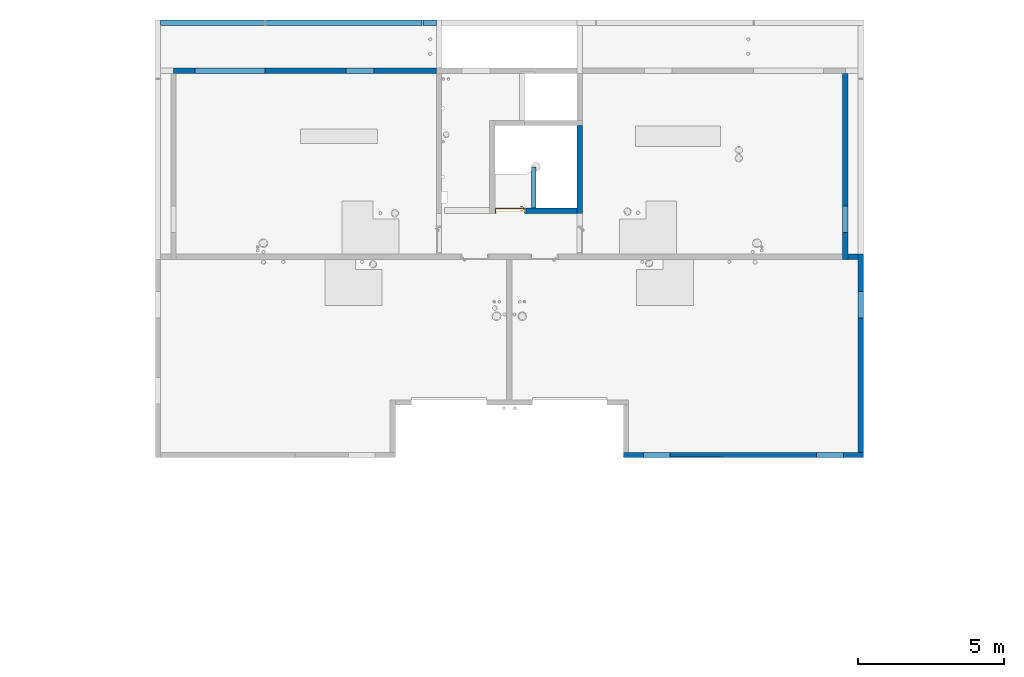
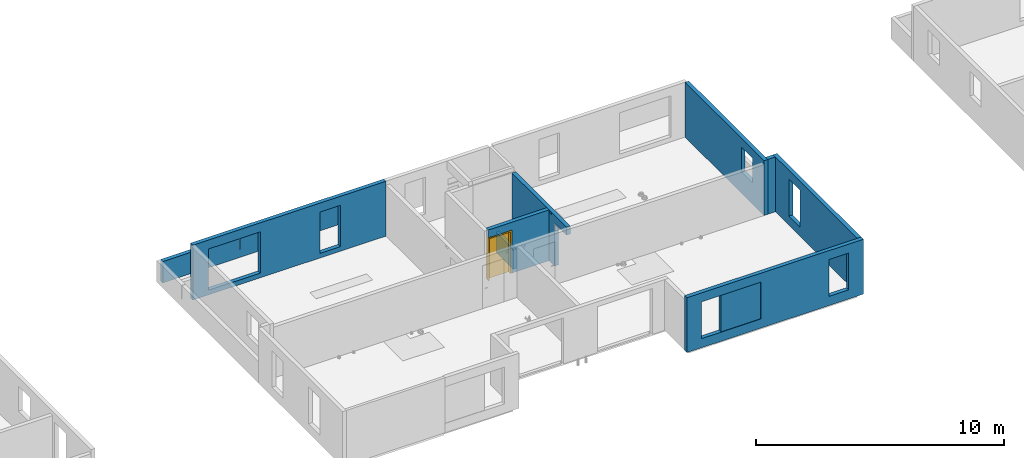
# One storey, part 11 of 28: 9 walls, 1 door, 15 openings.
"""IFC2X3 building model written with IfcOpenShell, lengths in centimetres."""

from ifc_helpers import new_model, entity, si_unit, converted_unit, derived_unit, direction, frame, frame_2d, origin, place, context, subcontext, project, spatial, polyline, rectangle, extrude, clip, bounded_halfspace, faceted_brep, source, transform, mapped, material, material_list, layer, layer_set, layer_usage, type_object, type_shapes, element, fill, save


model = new_model("IFC2X3")

# Units and contexts
model_context = context("Model", 3, precision=0.001, world=origin(), true_north=direction((6.12303176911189e-17, 1.0)))
body_context = subcontext(model_context, "Body", "Model", "MODEL_VIEW")
ifc_project = project(units=[si_unit("LENGTHUNIT", "METRE", prefix="CENTI"), si_unit("AREAUNIT", "SQUARE_METRE"), si_unit("VOLUMEUNIT", "CUBIC_METRE"), converted_unit("PLANEANGLEUNIT", "DEGREE", entity("IfcRatioMeasure", 0.0174532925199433), si_unit("PLANEANGLEUNIT", "RADIAN"), dimensions=[0, 0, 0, 0, 0, 0, 0]), si_unit("MASSUNIT", "GRAM", prefix="KILO"), derived_unit("MASSDENSITYUNIT", [(si_unit("MASSUNIT", "GRAM", prefix="KILO"), 1), (si_unit("LENGTHUNIT", "METRE"), -3)]), si_unit("TIMEUNIT", "SECOND"), si_unit("FREQUENCYUNIT", "HERTZ"), si_unit("THERMODYNAMICTEMPERATUREUNIT", "DEGREE_CELSIUS"), derived_unit("THERMALTRANSMITTANCEUNIT", [(si_unit("MASSUNIT", "GRAM", prefix="KILO"), 1), (si_unit("THERMODYNAMICTEMPERATUREUNIT", "KELVIN"), -1), (si_unit("TIMEUNIT", "SECOND"), -3)]), derived_unit("VOLUMETRICFLOWRATEUNIT", [(si_unit("LENGTHUNIT", "METRE"), 3), (si_unit("TIMEUNIT", "SECOND"), -1)]), si_unit("ELECTRICCURRENTUNIT", "AMPERE"), si_unit("ELECTRICVOLTAGEUNIT", "VOLT"), si_unit("POWERUNIT", "WATT"), si_unit("FORCEUNIT", "NEWTON"), si_unit("ILLUMINANCEUNIT", "LUX"), si_unit("LUMINOUSFLUXUNIT", "LUMEN"), si_unit("LUMINOUSINTENSITYUNIT", "CANDELA"), derived_unit("USERDEFINED", [(si_unit("MASSUNIT", "GRAM", prefix="KILO"), -1), (si_unit("LENGTHUNIT", "METRE"), -2), (si_unit("TIMEUNIT", "SECOND"), 3), (si_unit("LUMINOUSFLUXUNIT", "LUMEN"), 1)]), derived_unit("LINEARVELOCITYUNIT", [(si_unit("LENGTHUNIT", "METRE"), 1), (si_unit("TIMEUNIT", "SECOND"), -1)]), si_unit("PRESSUREUNIT", "PASCAL"), derived_unit("USERDEFINED", [(si_unit("LENGTHUNIT", "METRE"), -2), (si_unit("MASSUNIT", "GRAM", prefix="KILO"), 1), (si_unit("TIMEUNIT", "SECOND"), -2)])], contexts=[model_context])

# Site, building, storey
site_placement = place(None, origin())
site = spatial("IfcSite", under=ifc_project, at=site_placement, Name="Default", CompositionType="ELEMENT")
building_placement = place(site_placement, origin())
building = spatial("IfcBuilding", under=site, at=building_placement, Name="CAGE 03", CompositionType="ELEMENT")
storey_placement = place(building_placement, frame((0.0, 0.0, 1420.0)))
storey = spatial("IfcBuildingStorey", under=building, at=storey_placement, Name="R+5", CompositionType="ELEMENT", Elevation=1420.0)

# Wall, openings
ifc_material_1 = material(Name="Béton, C25/30")
ifc_layer_1 = layer(ifc_material_1, 18.0)
ifc_layer_set_1 = layer_set([ifc_layer_1], Name="Mur de base:Voile BA 18")
ifc_layer_usage_1 = layer_usage(ifc_layer_set_1, "AXIS2", "POSITIVE", -9.0)
wall_type_1 = type_object("IfcWallType", Name="Mur de base:Voile BA 18", PredefinedType="STANDARD", material=ifc_layer_set_1)
wall_1_placement = place(storey_placement, frame((7471.36582014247, 3805.6606660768, 0.0)))
wall_1 = element("IfcWallStandardCase", 1, at=wall_1_placement, inside=storey, type_object=wall_type_1, material=ifc_layer_usage_1, Name="Mur de base:Voile BA 18", ObjectType="Mur de base:Voile BA 18", context=body_context, shape_type="SweptSolid", body=[
    extrude(rectangle(XDim=821.000000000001, YDim=18.0000000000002, at=frame_2d((410.500000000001, 0.0), x_axis=(-1.0, 0.0))), origin(), (0.0, 0.0, 1.0), 270.0),
])
opening_1_placement = place(wall_1_placement, origin())
element("IfcOpeningElement", 2, at=opening_1_placement, cuts=wall_1, Name="Mur de base:Voile BA 18", ObjectType="Recess", context=body_context, shape_type="SweptSolid", body=[
    extrude(rectangle(XDim=181.0, YDim=184.0, at=frame_2d((-1.06581410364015e-13, 0.0), x_axis=(1.0, 0.0))), frame((252.0, -9.0, 135.5), z_axis=(0.0, 1.0, 0.0), x_axis=(0.0, 0.0, -1.0)), (0.0, 0.0, 1.0), 1.99999999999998),
])
opening_2_placement = place(wall_1_placement, origin())
element("IfcOpeningElement", 3, at=opening_2_placement, cuts=wall_1, Name="Mur de base:Voile BA 18", ObjectType="Recess", context=body_context, shape_type="SweptSolid", body=[
    extrude(rectangle(XDim=181.0, YDim=184.0, at=frame_2d((-1.06581410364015e-13, 0.0), x_axis=(1.0, 0.0))), frame((-1032.0, -9.0, 135.5), z_axis=(0.0, 1.0, 0.0), x_axis=(0.0, 0.0, -1.0)), (0.0, 0.0, 1.0), 1.99999999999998),
])
opening_3_placement = place(wall_1_placement, frame((-7471.36582014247, -3805.6606660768, 0.0)))
element("IfcOpeningElement", 4, at=opening_3_placement, cuts=wall_1, Name="Mur de base:Voile BA 18", ObjectType="Opening", context=body_context, shape_type="SweptSolid", body=[
    extrude(rectangle(XDim=181.0, YDim=91.0000000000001, at=frame_2d((0.0, -2.1316282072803e-13), x_axis=(0.0, 1.0))), frame((7585.86582014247, 3644.2606660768, 135.5), z_axis=(0.0, 1.0, 0.0), x_axis=(-1.0, 0.0, 0.0)), (0.0, 0.0, 1.0), 304.8),
])
opening_4_placement = place(wall_1_placement, frame((-7471.36582014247, -3805.6606660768, 0.0)))
element("IfcOpeningElement", 5, at=opening_4_placement, cuts=wall_1, Name="Mur de base:Voile BA 18", ObjectType="Opening", context=body_context, shape_type="SweptSolid", body=[
    extrude(rectangle(XDim=181.0, YDim=91.0000000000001, at=frame_2d((0.0, -2.1316282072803e-13), x_axis=(0.0, 1.0))), frame((8177.86582014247, 3644.2606660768, 135.5), z_axis=(0.0, 1.0, 0.0), x_axis=(-1.0, 0.0, 0.0)), (0.0, 0.0, 1.0), 304.8),
])

# Wall, opening
ifc_layer_usage_2 = layer_usage(ifc_layer_set_1, "AXIS2", "POSITIVE", -9.0)
wall_2_placement = place(storey_placement, frame((8283.36582014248, 3814.6606660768, 0.0), z_axis=(0.0, 0.0, 1.0), x_axis=(0.0, 1.0, 0.0)))
wall_2 = element("IfcWallStandardCase", 6, at=wall_2_placement, inside=storey, type_object=wall_type_1, material=ifc_layer_usage_2, Name="Mur de base:Voile BA 18", ObjectType="Mur de base:Voile BA 18", context=body_context, shape_type="SweptSolid", body=[
    extrude(rectangle(XDim=677.999999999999, YDim=17.9999999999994, at=frame_2d((339.0, 1.58095758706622e-13), x_axis=(-1.0, 0.0))), origin(), (0.0, 0.0, 1.0), 270.0),
])
opening_5_placement = place(wall_2_placement, frame((-3814.6606660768, 8283.36582014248, 0.0), z_axis=(0.0, 0.0, 1.0), x_axis=(0.0, -1.0, 0.0)))
element("IfcOpeningElement", 7, at=opening_5_placement, cuts=wall_2, Name="Mur de base:Voile BA 18", ObjectType="Opening", context=body_context, shape_type="SweptSolid", body=[
    extrude(rectangle(XDim=181.0, YDim=91.0000000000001, at=frame_2d((2.1316282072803e-13, 0.0), x_axis=(1.0, 0.0))), frame((8426.76582014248, 4320.1606660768, 135.5), z_axis=(-1.0, 0.0, 0.0), x_axis=(0.0, 0.0, 1.0)), (0.0, 0.0, 1.0), 304.8),
])

# Wall, openings
ifc_layer_usage_3 = layer_usage(ifc_layer_set_1, "AXIS2", "POSITIVE", -9.0)
wall_3_placement = place(storey_placement, frame((6840.36582014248, 5119.6606660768, 0.0), z_axis=(0.0, 0.0, 1.0), x_axis=(-1.0, 0.0, 0.0)))
wall_3 = element("IfcWallStandardCase", 8, at=wall_3_placement, inside=storey, type_object=wall_type_1, material=ifc_layer_usage_3, Name="Mur de base:Voile BA 18", ObjectType="Mur de base:Voile BA 18", context=body_context, shape_type="SweptSolid", body=[
    extrude(rectangle(XDim=898.999999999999, YDim=18.0000000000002, at=frame_2d((458.499999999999, -5.50670620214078e-13), x_axis=(-1.0, 0.0))), origin(), (0.0, 0.0, 1.0), 270.0),
])
opening_6_placement = place(wall_3_placement, origin())
element("IfcOpeningElement", 9, at=opening_6_placement, cuts=wall_3, Name="Mur de base:Voile BA 18", ObjectType="Opening", context=body_context, shape_type="SweptSolid", body=[
    extrude(rectangle(XDim=227.0, YDim=18.0000000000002, at=frame_2d((4.33431068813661e-13, -2.20268248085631e-13), x_axis=(0.0, 1.0))), frame((-284.0, 9.0, 113.5), z_axis=(0.0, 1.0, 0.0), x_axis=(-1.0, 0.0, 0.0)), (0.0, 0.0, 1.0), 160.0),
])
opening_7_placement = place(wall_3_placement, origin())
element("IfcOpeningElement", 10, at=opening_7_placement, cuts=wall_3, Name="Mur de base:Voile BA 18", ObjectType="Recess", context=body_context, shape_type="SweptSolid", body=[
    extrude(rectangle(XDim=30.0000000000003, YDim=49.9999999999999, at=frame_2d((-4.33431068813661e-13, 1.08357767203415e-13), x_axis=(0.0, 1.0))), frame((-303.0, 4.0, 25.0), z_axis=(0.0, 1.0, 0.0), x_axis=(1.0, 0.0, 0.0)), (0.0, 0.0, 1.0), 4.99999999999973),
])
opening_8_placement = place(wall_3_placement, origin())
element("IfcOpeningElement", 11, at=opening_8_placement, cuts=wall_3, Name="Mur de base:Voile BA 18", ObjectType="Recess", context=body_context, shape_type="SweptSolid", body=[
    extrude(rectangle(XDim=30.0000000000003, YDim=49.9999999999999, at=frame_2d((-4.33431068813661e-13, 1.08357767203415e-13), x_axis=(0.0, 1.0))), frame((-303.0, 4.0, 120.0), z_axis=(0.0, 1.0, 0.0), x_axis=(1.0, 0.0, 0.0)), (0.0, 0.0, 1.0), 4.99999999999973),
])
opening_9_placement = place(wall_3_placement, origin())
element("IfcOpeningElement", 12, at=opening_9_placement, cuts=wall_3, Name="Mur de base:Voile BA 18", ObjectType="Recess", context=body_context, shape_type="SweptSolid", body=[
    extrude(rectangle(XDim=30.0000000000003, YDim=49.9999999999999, at=frame_2d((-4.33431068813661e-13, 1.08357767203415e-13), x_axis=(0.0, 1.0))), frame((-303.0, 4.0, 165.0), z_axis=(0.0, 1.0, 0.0), x_axis=(1.0, 0.0, 0.0)), (0.0, 0.0, 1.0), 4.99999999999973),
])
opening_10_placement = place(wall_3_placement, frame((6840.36582014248, 5119.6606660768, 0.0), z_axis=(0.0, 0.0, 1.0), x_axis=(-1.0, 0.0, 0.0)))
element("IfcOpeningElement", 13, at=opening_10_placement, cuts=wall_3, Name="Mur de base:Voile BA 18", ObjectType="Opening", context=body_context, shape_type="SweptSolid", body=[
    extrude(rectangle(XDim=203.0, YDim=240.0, at=frame_2d((-4.33431068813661e-13, -1.06581410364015e-13), x_axis=(0.0, 1.0))), frame((6126.36582014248, 5263.0606660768, 124.5), z_axis=(0.0, -1.0, 0.0), x_axis=(1.0, 0.0, 0.0)), (0.0, 0.0, 1.0), 304.8),
])
opening_11_placement = place(wall_3_placement, frame((6840.36582014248, 5119.6606660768, 0.0), z_axis=(0.0, 0.0, 1.0), x_axis=(-1.0, 0.0, 0.0)))
element("IfcOpeningElement", 14, at=opening_11_placement, cuts=wall_3, Name="Mur de base:Voile BA 18", ObjectType="Opening", context=body_context, shape_type="SweptSolid", body=[
    extrude(rectangle(XDim=203.0, YDim=95.0000000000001, at=frame_2d((4.33431068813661e-13, -1.06581410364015e-13), x_axis=(0.0, 1.0))), frame((6570.86582014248, 5263.0606660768, 124.5), z_axis=(0.0, -1.0, 0.0), x_axis=(1.0, 0.0, 0.0)), (0.0, 0.0, 1.0), 304.8),
])

# Wall, opening
ifc_layer_usage_4 = layer_usage(ifc_layer_set_1, "AXIS2", "POSITIVE", -9.0)
wall_4_placement = place(storey_placement, frame((8230.36582014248, 4474.6606660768, 0.0), z_axis=(0.0, 0.0, 1.0), x_axis=(0.0, 1.0, 0.0)))
wall_4 = element("IfcWallStandardCase", 15, at=wall_4_placement, inside=storey, type_object=wall_type_1, material=ifc_layer_usage_4, Name="Mur de base:Voile BA 18", ObjectType="Mur de base:Voile BA 18", context=body_context, shape_type="SweptSolid", body=[
    extrude(rectangle(XDim=636.000000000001, YDim=17.9999999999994, at=frame_2d((318.0, 9.41469124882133e-14), x_axis=(-1.0, 0.0))), origin(), (0.0, 0.0, 1.0), 270.0),
])
opening_12_placement = place(wall_4_placement, frame((-4474.6606660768, 8230.36582014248, 0.0), z_axis=(0.0, 0.0, 1.0), x_axis=(0.0, -1.0, 0.0)))
element("IfcOpeningElement", 16, at=opening_12_placement, cuts=wall_4, Name="Mur de base:Voile BA 18", ObjectType="Opening", context=body_context, shape_type="SweptSolid", body=[
    extrude(rectangle(XDim=121.0, YDim=91.0000000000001, at=frame_2d((-1.10134124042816e-13, 0.0), x_axis=(1.0, 0.0))), frame((8373.76582014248, 4612.1606660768, 165.5), z_axis=(-1.0, 0.0, 0.0), x_axis=(0.0, 0.0, 1.0)), (0.0, 0.0, 1.0), 304.8),
])

# Walls
ifc_layer_usage_5 = layer_usage(ifc_layer_set_1, "AXIS2", "NEGATIVE", 9.0)
wall_5_placement = place(storey_placement, frame((8239.36582014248, 4483.6606660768, 0.0)))
element("IfcWallStandardCase", 17, at=wall_5_placement, inside=storey, type_object=wall_type_1, material=ifc_layer_usage_5, Name="Mur de base:Voile BA 18", ObjectType="Mur de base:Voile BA 18", context=body_context, shape_type="SweptSolid", body=[
    extrude(rectangle(XDim=35.0000000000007, YDim=17.9999999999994, at=frame_2d((17.5000000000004, 5.77315972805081e-14), x_axis=(-1.0, 0.0))), origin(), (0.0, 0.0, 1.0), 270.0),
])
ifc_layer_usage_6 = layer_usage(ifc_layer_set_1, "AXIS2", "POSITIVE", -9.0)
wall_6_placement = place(storey_placement, frame((6831.36582014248, 5284.6606660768, 0.0), z_axis=(0.0, 0.0, 1.0), x_axis=(-1.0, 0.0, 0.0)))
element("IfcWallStandardCase", 18, at=wall_6_placement, inside=storey, type_object=wall_type_1, material=ifc_layer_usage_6, Name="Mur de base:Voile BA 18", ObjectType="Mur de base:Voile BA 18", context=body_context, shape_type="Clipping", body=[
    clip(clip(extrude(rectangle(XDim=943.0, YDim=17.9999999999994, at=frame_2d((471.5, -2.71782596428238e-13), x_axis=(-1.0, 0.0))), origin(), (0.0, 0.0, 1.0), 105.0), bounded_halfspace(frame((584.0, 9.0, 40.0), z_axis=(0.0, 0.0, 1.0), x_axis=(0.0, -1.0, 0.0)), False, frame((584.0, 9.0, 40.0), z_axis=(0.0, 0.0, 1.0), x_axis=(0.0, -1.0, 0.0)), polyline([(0.0, 0.0), (18.0, 0.0), (18.0, 2.0), (0.0, 2.0), (0.0, 0.0)]))), bounded_halfspace(frame((46.0, 9.0, 40.0), z_axis=(0.0, 0.0, 1.0), x_axis=(0.0, -1.0, 0.0)), False, frame((46.0, 9.0, 40.0), z_axis=(0.0, 0.0, 1.0), x_axis=(0.0, -1.0, 0.0)), polyline([(0.0, 0.0), (18.0, 0.0), (18.0, 2.0), (0.0, 2.0), (0.0, 0.0)]))),
])

# Wall, opening, door
ifc_material_2 = material(Name="Béton, panneaux préfa 30/37")
ifc_layer_2 = layer(ifc_material_2, 5.5)
ifc_layer_3 = layer(ifc_material_1, 7.0)
ifc_layer_4 = layer(ifc_material_2, 5.5)
ifc_layer_set_2 = layer_set([ifc_layer_2, ifc_layer_3, ifc_layer_4], Name="Mur de base:premur 18")
ifc_layer_usage_7 = layer_usage(ifc_layer_set_2, "AXIS2", "NEGATIVE", 9.0)
wall_type_2 = type_object("IfcWallType", Name="Mur de base:premur 18", PredefinedType="NOTDEFINED")
wall_7_placement = place(storey_placement, frame((7031.36582014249, 4641.6606660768, 0.0)))
wall_7 = element("IfcWallStandardCase", 19, at=wall_7_placement, inside=storey, type_object=wall_type_2, material=ifc_layer_usage_7, Name="Mur de base:premur 18", ObjectType="Mur de base:premur 18", context=body_context, shape_type="SweptSolid", body=[
    extrude(rectangle(XDim=281.999999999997, YDim=17.9999999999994, at=frame_2d((140.999999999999, -8.5265128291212e-14), x_axis=(-1.0, 0.0))), origin(), (0.0, 0.0, 1.0), 250.0),
])
opening_13_placement = place(wall_7_placement, frame((0.0, -9.0, 0.0)))
opening_13 = element("IfcOpeningElement", 20, at=opening_13_placement, cuts=wall_7, Name="Int. Simple:HB103:1", ObjectType="Opening", context=body_context, shape_type="SweptSolid", body=[
    extrude(rectangle(XDim=210.000000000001, YDim=107.0, at=frame_2d((105.000000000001, 53.4999999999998), x_axis=(1.0, 0.0))), frame((0.0, 0.0, 0.0), z_axis=(0.0, 1.0, 0.0), x_axis=(0.0, 0.0, 1.0)), (0.0, 0.0, 1.0), 18.0),
])
ifc_material_3 = material(Name="Finition Peinture - Blanc satiné")
ifc_material_4 = material(Name="Bois - Panneau de porte")
ifc_material_5 = material(Name="Bois - Cadre de porte")
ifc_material_list_1 = material_list([ifc_material_3, ifc_material_4, ifc_material_5])
ifc_material_list_2 = material_list([ifc_material_3, ifc_material_4, ifc_material_5])
door_style = type_object("IfcDoorStyle", Name="HB103", ConstructionType="NOTDEFINED", OperationType="SINGLE_SWING_LEFT", ParameterTakesPrecedence=False, Sizeable=False, material=ifc_material_list_2)
shared_shape = source(origin(), body_context, "Body", "Brep", [
    faceted_brep([(10.5352761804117, -0.500000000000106, 86.6003983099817), (11.5000000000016, -0.500000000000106, 87.0), (11.5000000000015, -0.500000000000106, 108.0), (10.5352761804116, -0.500000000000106, 108.399601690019), (9.50000000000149, -0.500000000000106, 108.535898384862), (8.46472381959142, -0.500000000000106, 108.399601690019), (7.50000000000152, -0.500000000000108, 108.0), (7.50000000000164, -0.500000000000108, 87.0), (8.46472381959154, -0.500000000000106, 86.6003983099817), (9.5000000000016, -0.500000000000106, 86.464101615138), (10.5352761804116, 0.0, 108.399601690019), (11.5000000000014, 0.0, 108.0), (11.5000000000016, 0.0, 87.0), (10.5352761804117, 0.0, 86.6003983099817), (9.5000000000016, 0.0, 86.464101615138), (8.46472381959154, 0.0, 86.6003983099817), (7.50000000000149, 0.0, 87.0), (7.50000000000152, 0.0, 108.0), (8.46472381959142, 0.0, 108.399601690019), (9.50000000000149, 0.0, 108.535898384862)], [[[0, 1, 2, 3, 4, 5, 6, 7, 8, 9]], [[10, 11, 12, 13, 14, 15, 16, 17, 18, 19]], [[16, 15, 8, 7]], [[8, 15, 14, 9]], [[14, 13, 0, 9]], [[13, 12, 1, 0]], [[2, 1, 12, 11]], [[11, 10, 3, 2]], [[3, 10, 19, 4]], [[19, 18, 5, 4]], [[18, 17, 6, 5]], [[7, 6, 17, 16]]]),
    faceted_brep([(10.5352761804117, 3.0, 86.6003983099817), (11.5000000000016, 3.0, 87.0), (11.5000000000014, 3.0, 108.0), (10.5352761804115, 3.0, 108.399601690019), (9.50000000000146, 3.0, 108.535898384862), (8.4647238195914, 3.0, 108.399601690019), (7.50000000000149, 3.0, 108.0), (7.50000000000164, 3.0, 87.0), (8.46472381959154, 3.0, 86.6003983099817), (9.50000000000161, 3.0, 86.464101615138), (10.5352761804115, 3.49999999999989, 108.399601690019), (11.5000000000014, 3.49999999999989, 108.0), (11.5000000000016, 3.49999999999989, 87.0), (10.5352761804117, 3.49999999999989, 86.6003983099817), (9.50000000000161, 3.49999999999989, 86.464101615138), (8.46472381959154, 3.49999999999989, 86.6003983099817), (7.50000000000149, 3.49999999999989, 87.0), (7.50000000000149, 3.49999999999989, 108.0), (8.4647238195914, 3.49999999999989, 108.399601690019), (9.50000000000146, 3.49999999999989, 108.535898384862)], [[[0, 1, 2, 3, 4, 5, 6, 7, 8, 9]], [[10, 11, 12, 13, 14, 15, 16, 17, 18, 19]], [[11, 10, 3, 2]], [[3, 10, 19, 4]], [[19, 18, 5, 4]], [[18, 17, 6, 5]], [[7, 6, 17, 16]], [[16, 15, 8, 7]], [[8, 15, 14, 9]], [[14, 13, 0, 9]], [[13, 12, 1, 0]], [[2, 1, 12, 11]]]),
    faceted_brep([(9.29747013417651, -0.500000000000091, 100.778044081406), (9.70252986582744, -0.500000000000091, 100.778044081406), (10.1000000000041, -0.500000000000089, 100.699999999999), (10.1000000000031, -0.500000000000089, 99.3000000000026), (9.7025298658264, -0.500000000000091, 99.2219559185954), (9.29747013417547, -0.500000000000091, 99.2219559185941), (8.89999999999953, -0.500000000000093, 99.2999999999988), (8.89999999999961, -0.500000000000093, 100.7), (8.8999999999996, -3.26509507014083, 100.7), (9.29747013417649, -3.1004575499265, 100.778044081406), (10.9023585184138, -4.70534593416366, 100.778044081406), (11.0701397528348, -4.30028620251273, 100.778044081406), (9.70252986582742, -2.93267631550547, 100.778044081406), (10.1000000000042, -2.76803879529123, 100.7), (10.1000000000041, -2.76803879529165, 99.3000000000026), (9.7025298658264, -2.93267631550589, 99.2219559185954), (11.0701397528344, -4.30028620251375, 99.2219559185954), (10.9023585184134, -4.70534593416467, 99.2219559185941), (9.29747013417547, -3.10045754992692, 99.2219559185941), (8.89999999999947, -3.26509507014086, 99.2999999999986), (10.7377209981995, -5.10281606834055, 100.7), (11.2347772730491, -3.90281606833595, 100.7), (11.2347772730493, -3.90281606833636, 99.3000000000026), (10.7377209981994, -5.10281606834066, 99.2999999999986), (19.5018640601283, -5.10281606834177, 99.2999999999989), (19.5018640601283, -4.70534593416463, 99.2219559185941), (19.5018640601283, -4.30028620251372, 99.2219559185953), (19.5018640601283, -3.90281606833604, 99.3000000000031), (19.5018640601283, -3.90281606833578, 100.7), (19.5018640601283, -4.30028620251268, 100.778044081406), (19.5018640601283, -4.7053459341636, 100.778044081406), (19.5018640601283, -5.10281606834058, 100.699999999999), (14.7307697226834, -5.10281606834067, 100.7), (15.2860019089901, -4.50281606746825, 100.78786867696), (15.3683206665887, -3.90281606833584, 100.7), (15.3683206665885, -3.90281606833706, 99.3000000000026), (15.2860018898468, -4.50281607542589, 99.2121313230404), (14.7307703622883, -5.10281606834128, 99.2999999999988)], [[[0, 1, 2, 3, 4, 5, 6, 7]], [[8, 9, 0, 7]], [[9, 10, 11, 12, 1, 0]], [[12, 13, 2, 1]], [[3, 2, 13, 14]], [[14, 15, 4, 3]], [[15, 16, 17, 18, 5, 4]], [[18, 19, 6, 5]], [[7, 6, 19, 8]], [[20, 10, 9, 8]], [[11, 21, 13, 12]], [[14, 13, 21, 22]], [[22, 16, 15, 14]], [[17, 23, 19, 18]], [[8, 19, 23, 20]], [[24, 25, 26, 27, 28, 29, 30, 31]], [[32, 30, 33]], [[31, 30, 32]], [[10, 20, 32]], [[33, 34, 11]], [[21, 11, 34]], [[34, 29, 28]], [[30, 29, 33]], [[29, 34, 33]], [[10, 32, 33]], [[10, 33, 11]], [[22, 21, 34, 28, 27, 35]], [[35, 26, 36]], [[37, 36, 25]], [[22, 35, 16]], [[35, 27, 26]], [[24, 37, 25]], [[23, 17, 37]], [[37, 17, 36]], [[17, 16, 36]], [[16, 35, 36]], [[25, 36, 26]], [[20, 23, 37, 24, 31, 32]]]),
    faceted_brep([(9.29747013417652, 3.49999999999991, 100.778044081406), (8.89999999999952, 3.4999999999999, 100.7), (8.89999999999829, 3.4999999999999, 99.299999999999), (9.29747013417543, 3.49999999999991, 99.2219559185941), (9.70252986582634, 3.49999999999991, 99.2219559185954), (10.1000000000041, 3.49999999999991, 99.3000000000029), (10.1000000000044, 3.49999999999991, 100.7), (9.70252986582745, 3.49999999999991, 100.778044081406), (10.1000000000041, 5.74852045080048, 99.3000000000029), (10.1000000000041, 5.74852045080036, 100.7), (9.70252986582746, 5.91315797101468, 100.778044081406), (11.0838906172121, 7.29451872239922, 100.778044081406), (10.9161093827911, 7.69957845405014, 100.778044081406), (9.29747013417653, 6.08093920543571, 100.778044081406), (8.89999999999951, 6.2455767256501, 100.7), (8.8999999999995, 6.24557672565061, 99.299999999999), (9.29747013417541, 6.08093920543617, 99.2219559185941), (10.9161093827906, 7.69957845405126, 99.2219559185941), (11.0838906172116, 7.29451872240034, 99.2219559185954), (9.70252986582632, 5.91315797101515, 99.2219559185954), (11.2485281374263, 6.89704858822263, 99.3000000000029), (11.2485281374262, 6.89704858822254, 100.7), (10.7514718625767, 8.09704858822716, 100.7), (10.7514718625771, 8.09704858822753, 99.299999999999), (19.5045783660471, 6.8970485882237, 99.3000000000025), (19.5045783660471, 7.29451872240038, 99.2219559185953), (19.5045783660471, 7.6995784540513, 99.2219559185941), (19.5045783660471, 8.09704858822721, 99.2999999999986), (19.5045783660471, 8.0970485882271, 100.7), (19.5045783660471, 7.6995784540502, 100.778044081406), (19.5045783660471, 7.29451872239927, 100.778044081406), (19.5045783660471, 6.89704858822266, 100.7), (15.3765532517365, 6.89704858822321, 99.3000000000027), (15.3765532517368, 6.89704858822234, 100.7), (15.2942344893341, 7.4970485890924, 100.78786867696), (14.7445205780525, 8.09704858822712, 100.7), (14.7445205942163, 8.09704858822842, 99.299999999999), (15.2942345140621, 7.49704858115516, 99.2121313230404)], [[[0, 1, 2, 3, 4, 5, 6, 7]], [[6, 5, 8, 9]], [[9, 10, 7, 6]], [[10, 11, 12, 13, 0, 7]], [[13, 14, 1, 0]], [[2, 1, 14, 15]], [[15, 16, 3, 2]], [[16, 17, 18, 19, 4, 3]], [[19, 8, 5, 4]], [[9, 8, 20, 21]], [[21, 11, 10, 9]], [[12, 22, 14, 13]], [[15, 14, 22, 23]], [[23, 17, 16, 15]], [[18, 20, 8, 19]], [[24, 25, 26, 27, 28, 29, 30, 31]], [[21, 20, 32, 24, 31, 33]], [[33, 30, 34]], [[35, 34, 29]], [[21, 33, 11]], [[33, 31, 30]], [[28, 35, 29]], [[22, 12, 35]], [[35, 12, 34]], [[12, 11, 34]], [[11, 33, 34]], [[29, 34, 30]], [[22, 35, 28, 27, 36, 23]], [[36, 26, 37]], [[27, 26, 36]], [[17, 23, 36]], [[37, 32, 18]], [[20, 18, 32]], [[32, 25, 24]], [[26, 25, 37]], [[25, 32, 37]], [[17, 36, 37]], [[17, 37, 18]]]),
    faceted_brep([(3.5000000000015, 3.0, 206.5), (103.500000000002, 3.0, 206.5), (103.500000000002, 3.0, 0.0), (3.5000000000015, 3.0, 0.0), (3.5000000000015, 0.0, 206.5), (3.5000000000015, 0.0, 0.0), (103.500000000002, 0.0, 0.0), (103.500000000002, 0.0, 206.5)], [[[0, 1, 2, 3]], [[4, 5, 6, 7]], [[1, 0, 4, 7]], [[2, 1, 7, 6]], [[3, 2, 6, 5]], [[0, 3, 5, 4]]]),
    faceted_brep([(0.0, 0.0, 0.0), (0.0, 18.0, 0.0), (5.0, 18.0, 0.0), (5.0, 3.0, 0.0), (3.50000000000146, 3.0, 0.0), (3.50000000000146, 0.0, 0.0), (0.0, 0.0, 210.0), (0.0, 18.0, 210.0), (107.0, 18.0, 210.0), (107.0, 18.0, 0.0), (102.0, 18.0, 0.0), (102.0, 18.0, 205.0), (5.0, 18.0, 205.0), (5.0, 3.0, 205.0), (102.0, 3.0, 205.0), (102.0, 3.0, 0.0), (103.499999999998, 3.0, 0.0), (103.499999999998, 3.0, 206.5), (3.50000000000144, 3.0, 206.5), (3.50000000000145, 0.0, 206.5), (103.499999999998, 0.0, 206.5), (103.499999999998, 0.0, 0.0), (107.0, 0.0, 0.0), (107.0, 0.0, 210.0)], [[[0, 1, 2, 3, 4, 5]], [[1, 0, 6, 7]], [[2, 1, 7, 8, 9, 10, 11, 12]], [[3, 2, 12, 13]], [[4, 3, 13, 14, 15, 16, 17, 18]], [[5, 4, 18, 19]], [[0, 5, 19, 20, 21, 22, 23, 6]], [[8, 23, 22, 9]], [[22, 21, 16, 15, 10, 9]], [[14, 11, 10, 15]], [[20, 17, 16, 21]], [[7, 6, 23, 8]], [[13, 12, 11, 14]], [[19, 18, 17, 20]]]),
    faceted_brep([(1.49999999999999, 18.0, 0.0), (-1.5, 18.0, 0.0), (-1.5, 18.5000000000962, 0.0), (1.49999999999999, 18.5000000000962, 0.0), (1.49999999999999, 18.0, 208.500000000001), (105.5, 18.0, 208.500000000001), (105.5, 18.0, 0.0), (108.5, 18.0, 0.0), (108.5, 18.0, 211.500000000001), (-1.50000000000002, 18.0, 211.500000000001), (-1.5, 18.5000000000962, 211.500000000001), (108.5, 18.5000000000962, 211.500000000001), (108.5, 18.5000000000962, 0.0), (105.5, 18.5000000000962, 0.0), (105.5, 18.5000000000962, 208.500000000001), (1.49999999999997, 18.5000000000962, 208.500000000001)], [[[0, 1, 2, 3]], [[1, 0, 4, 5, 6, 7, 8, 9]], [[2, 1, 9, 10]], [[3, 2, 10, 11, 12, 13, 14, 15]], [[0, 3, 15, 4]], [[6, 13, 12, 7]], [[5, 14, 13, 6]], [[11, 8, 7, 12]], [[10, 9, 8, 11]], [[4, 15, 14, 5]]]),
    faceted_brep([(-1.5, -0.5, 0.0), (1.49999999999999, -0.5, 0.0), (1.49999999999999, -0.5, 208.500000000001), (105.5, -0.5, 208.500000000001), (105.5, -0.5, 0.0), (108.5, -0.5, 0.0), (108.5, -0.5, 211.500000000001), (-1.50000000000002, -0.5, 211.500000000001), (-1.5, 0.0, 0.0), (-1.5, 0.0, 211.500000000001), (1.49999999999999, 0.0, 0.0), (108.5, 0.0, 211.500000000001), (108.5, 0.0, 0.0), (105.5, 0.0, 0.0), (105.5, 0.0, 208.500000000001), (1.49999999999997, 0.0, 208.500000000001)], [[[0, 1, 2, 3, 4, 5, 6, 7]], [[8, 0, 7, 9]], [[10, 8, 9, 11, 12, 13, 14, 15]], [[1, 10, 15, 2]], [[3, 14, 13, 4]], [[11, 6, 5, 12]], [[9, 7, 6, 11]], [[2, 15, 14, 3]], [[4, 13, 12, 5]], [[1, 0, 8, 10]]]),
])
type_shapes(door_style, [shared_shape])
door_placement = place(opening_13_placement, frame((107.0, 18.0, 0.0), z_axis=(0.0, 0.0, 1.0), x_axis=(-1.0, 0.0, 0.0)))
door = element("IfcDoor", 21, at=door_placement, inside=storey, type_object=door_style, material=ifc_material_list_1, Name="Int. Simple:HB103", ObjectType="HB103", OverallHeight=210.000000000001, OverallWidth=107.0, context=body_context, shape_type="MappedRepresentation", body=[
    mapped(shared_shape, transform((0.0, 0.0, 0.0), scale=1.0)),
])
fill(opening_13, door)

# Wall, openings
ifc_layer_usage_8 = layer_usage(ifc_layer_set_2, "AXIS2", "NEGATIVE", 9.0)
wall_8_placement = place(storey_placement, frame((7322.36582014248, 4932.6606660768, 0.0), z_axis=(0.0, 0.0, 1.0), x_axis=(0.0, -1.0, 0.0)))
wall_8 = element("IfcWallStandardCase", 22, at=wall_8_placement, inside=storey, type_object=wall_type_2, material=ifc_layer_usage_8, Name="Mur de base:premur 18", ObjectType="Mur de base:premur 18", context=body_context, shape_type="SweptSolid", body=[
    extrude(rectangle(XDim=440.0, YDim=17.9999999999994, at=frame_2d((220.0, 0.0), x_axis=(-1.0, 0.0))), origin(), (0.0, 0.0, 1.0), 250.0),
])
opening_14_placement = place(wall_8_placement, origin())
element("IfcOpeningElement", 23, at=opening_14_placement, cuts=wall_8, Name="Mur de base:premur 18", ObjectType="Opening", context=body_context, shape_type="SweptSolid", body=[
    extrude(rectangle(XDim=10.0000000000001, YDim=19.9999999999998, at=frame_2d((4.33431068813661e-13, -1.08357767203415e-13), x_axis=(0.0, 1.0))), frame((310.0, -9.0, 242.500000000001), z_axis=(0.0, 1.0, 0.0), x_axis=(1.0, 0.0, 0.0)), (0.0, 0.0, 1.0), 17.9999999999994),
])
opening_15_placement = place(wall_8_placement, frame((343.0, -9.0, 0.0)))
element("IfcOpeningElement", 24, at=opening_15_placement, cuts=wall_8, Name="Int. Simple:HB93:1", ObjectType="Opening", context=body_context, shape_type="SweptSolid", body=[
    extrude(rectangle(XDim=210.000000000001, YDim=96.9999999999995, at=frame_2d((105.000000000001, 48.4999999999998), x_axis=(1.0, 0.0))), frame((0.0, 0.0, 0.0), z_axis=(0.0, 1.0, 0.0), x_axis=(0.0, 0.0, 1.0)), (0.0, 0.0, 1.0), 18.0),
])

# Wall
ifc_layer_5 = layer(ifc_material_1, 15.0)
ifc_layer_set_3 = layer_set([ifc_layer_5], Name="Mur de base:Voile BA 15")
ifc_layer_usage_9 = layer_usage(ifc_layer_set_3, "AXIS2", "POSITIVE", -7.5)
wall_type_3 = type_object("IfcWallType", Name="Mur de base:Voile BA 15", PredefinedType="STANDARD", material=ifc_layer_set_3)
wall_9_placement = place(storey_placement, frame((7164.86582014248, 4791.66066607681, 0.0), z_axis=(0.0, 0.0, 1.0), x_axis=(0.0, -1.0, 0.0)))
element("IfcWallStandardCase", 25, at=wall_9_placement, inside=storey, type_object=wall_type_3, material=ifc_layer_usage_9, Name="Mur de base:Voile BA 15", ObjectType="Mur de base:Voile BA 15", context=body_context, shape_type="SweptSolid", body=[
    extrude(rectangle(XDim=141.00000000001, YDim=15.0000000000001, at=frame_2d((70.5000000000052, 9.45910016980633e-14), x_axis=(-1.0, 0.0))), origin(), (0.0, 0.0, 1.0), 99.9999999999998),
])

save(model, "model.ifc")
